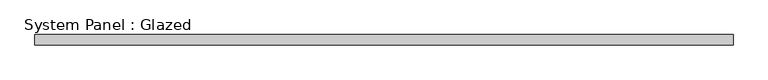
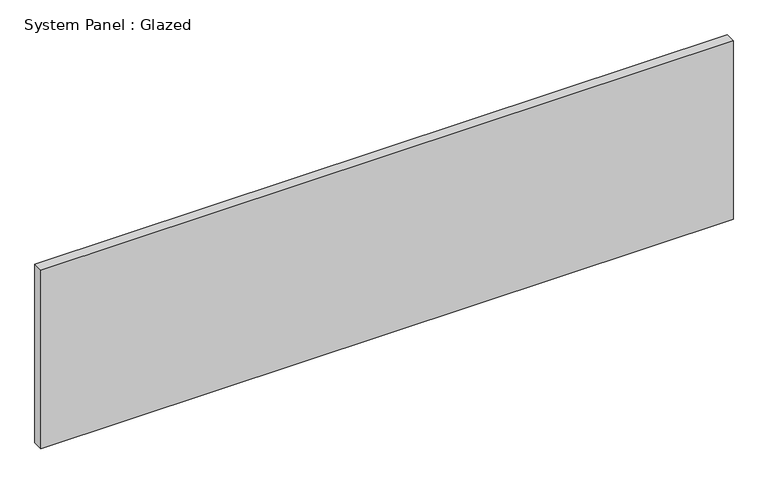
"""IFC4 building model written with IfcOpenShell, lengths in millimetres: plate geometry, System Panel : Glazed."""

from ifc_helpers import new_model, si_unit, origin, origin_with_axes, place, context, project, spatial, polyline, outline, extrude, source, transform, mapped, element, save


def system_panel_glazed_896194a9(model_context):
    return source(origin(), model_context, "Body", "SweptSolid", [
        extrude(outline(polyline([(825.0, 24.5), (-825.0, 24.5), (-825.0, 49.5), (825.0, 49.5), (825.0, 24.5)])), origin_with_axes(), (0.0, 0.0, 1.0), 450.0),
    ])


if __name__ == "__main__":
    model = new_model("IFC4")
    model_context = context("Model", 3, world=origin())
    ifc_project = project(units=[si_unit("LENGTHUNIT", "METRE", prefix="MILLI")], contexts=[model_context])
    site = spatial("IfcSite", under=ifc_project)
    building = spatial("IfcBuilding", under=site)
    placement = place(None, origin())
    system_panel_glazed_shape = system_panel_glazed_896194a9(model_context)
    element("IfcPlate", 1, ObjectType="System Panel : Glazed", at=placement, inside=building, context=model_context, shape_type="MappedRepresentation", body=[
        mapped(system_panel_glazed_shape, transform((0.0, 0.0, 0.0), x_axis=(1.0, 0.0, 0.0), y_axis=(0.0, 1.0, 0.0), z_axis=(0.0, 0.0, 1.0))),
    ])
    save(model, "model.ifc")
